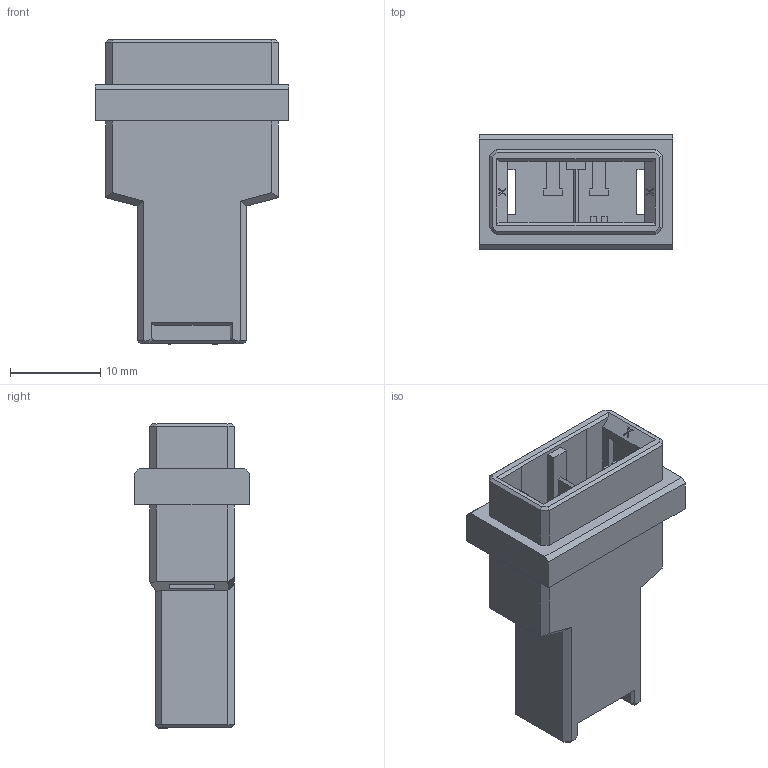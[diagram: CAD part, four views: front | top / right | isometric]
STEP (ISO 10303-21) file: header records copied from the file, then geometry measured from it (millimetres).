
FILE_DESCRIPTION (( 'STEP AP203' ), '1' );
FILE_NAME ('DK-3200S-02F.STEP', '2024-07-04T02:58:22', ( '' ), ( '' ), 'SwSTEP 2.0', 'SolidWorks 2024', '' );
FILE_SCHEMA (( 'CONFIG_CONTROL_DESIGN' ));
Length unit declared in the file: millimetre
Products named in the file (1): DK-3200S-02F
Bounding box: 21.4 x 12.7 x 33.7 mm (x, y, z)
Volume: 3311.6 mm3; surface area: 3270 mm2
Topology: 1 solids, 1 shells, 437 faces, 1198 edges, 786 vertices
Faces by surface type: plane 323, bspline 110, cylinder 4
Entity records: 16823 total; most frequent: CARTESIAN_POINT 6434, ORIENTED_EDGE 2396, DIRECTION 1632, EDGE_CURVE 1198, VECTOR 960, LINE 960, VERTEX_POINT 786, EDGE_LOOP 464
